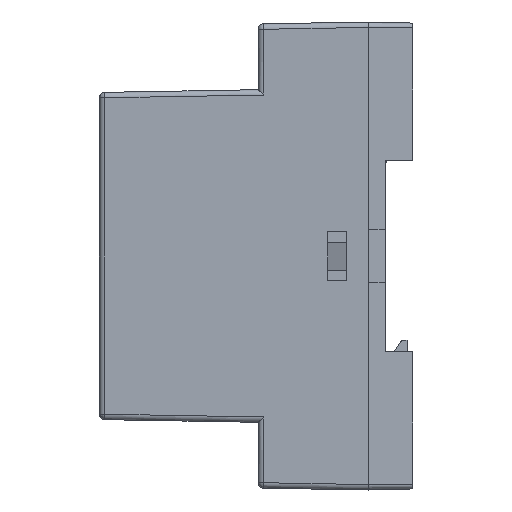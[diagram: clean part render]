
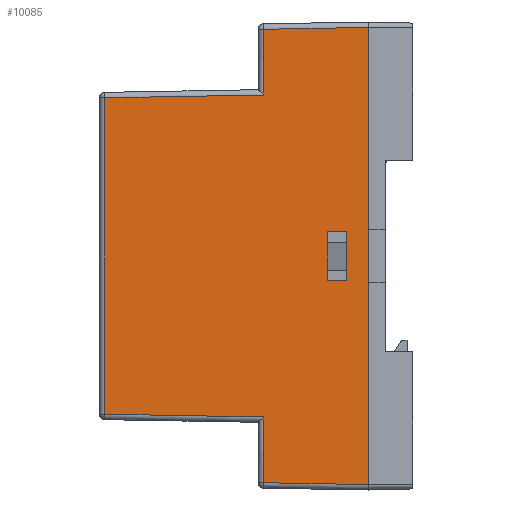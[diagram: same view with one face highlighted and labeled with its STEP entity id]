
A CAD part, left-side view. The second image highlights one B-rep face of the part: STEP entity #10085.
In plain terms, the highlighted planar face has unit normal (-1, 0.009, 0).
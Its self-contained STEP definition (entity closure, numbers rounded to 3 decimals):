
#159 = PLANE ( 'NONE',  #753 ) ;
#237 = CARTESIAN_POINT ( 'NONE',  ( -52.485, 7.5, 4.5 ) ) ;
#363 = LINE ( 'NONE', #15161, #3368 ) ;
#548 = VERTEX_POINT ( 'NONE', #237 ) ;
#753 = AXIS2_PLACEMENT_3D ( 'NONE', #8974, #12380, #5023 ) ;
#754 = DIRECTION ( 'NONE',  ( 0., 0., 1. ) ) ;
#1237 = LINE ( 'NONE', #7459, #5429 ) ;
#1588 = VERTEX_POINT ( 'NONE', #4407 ) ;
#1833 = CARTESIAN_POINT ( 'NONE',  ( -52.552, -0.228, 29.958 ) ) ;
#1844 = LINE ( 'NONE', #15418, #5354 ) ;
#1914 = DIRECTION ( 'NONE',  ( -0.009, -1., 0. ) ) ;
#1981 = VECTOR ( 'NONE', #13837, 1000. ) ;
#2292 = ORIENTED_EDGE ( 'NONE', *, *, #12366, .T. ) ;
#2302 = DIRECTION ( 'NONE',  ( -0.009, -1., -0.017 ) ) ;
#2346 = ORIENTED_EDGE ( 'NONE', *, *, #14814, .T. ) ;
#2447 = ORIENTED_EDGE ( 'NONE', *, *, #12183, .T. ) ;
#2694 = LINE ( 'NONE', #3994, #7146 ) ;
#2713 = EDGE_CURVE ( 'NONE', #12020, #1588, #363, .T. ) ;
#2723 = CARTESIAN_POINT ( 'NONE',  ( -52.381, 19.309, 43.05 ) ) ;
#2805 = ORIENTED_EDGE ( 'NONE', *, *, #3890, .T. ) ;
#2893 = EDGE_CURVE ( 'NONE', #1588, #11878, #1237, .T. ) ;
#2928 = CARTESIAN_POINT ( 'NONE',  ( -52.127, 48.509, -29.108 ) ) ;
#2935 = VERTEX_POINT ( 'NONE', #9410 ) ;
#3117 = LINE ( 'NONE', #8169, #6229 ) ;
#3368 = VECTOR ( 'NONE', #11284, 1000. ) ;
#3375 = ORIENTED_EDGE ( 'NONE', *, *, #5395, .T. ) ;
#3471 = EDGE_CURVE ( 'NONE', #15432, #2935, #9365, .T. ) ;
#3530 = VERTEX_POINT ( 'NONE', #15662 ) ;
#3886 = VERTEX_POINT ( 'NONE', #4431 ) ;
#3890 = EDGE_CURVE ( 'NONE', #11878, #7615, #10644, .T. ) ;
#3903 = VECTOR ( 'NONE', #2302, 1000. ) ;
#3994 = CARTESIAN_POINT ( 'NONE',  ( -52.55, 0., 43.05 ) ) ;
#4059 = FACE_BOUND ( 'NONE', #9558, .T. ) ;
#4394 = LINE ( 'NONE', #9215, #5332 ) ;
#4407 = CARTESIAN_POINT ( 'NONE',  ( -52.381, 19.309, 41.713 ) ) ;
#4431 = CARTESIAN_POINT ( 'NONE',  ( -52.515, 4., -4.5 ) ) ;
#4492 = CARTESIAN_POINT ( 'NONE',  ( -52.127, 48.509, 29.108 ) ) ;
#4509 = CARTESIAN_POINT ( 'NONE',  ( -52.55, 0., -42.05 ) ) ;
#4531 = ORIENTED_EDGE ( 'NONE', *, *, #15669, .T. ) ;
#4653 = CARTESIAN_POINT ( 'NONE',  ( -52.537, 1.485, -42.024 ) ) ;
#4709 = LINE ( 'NONE', #11825, #10474 ) ;
#5023 = DIRECTION ( 'NONE',  ( -0.009, -1., 0. ) ) ;
#5207 = LINE ( 'NONE', #13932, #1981 ) ;
#5224 = ORIENTED_EDGE ( 'NONE', *, *, #2893, .T. ) ;
#5329 = CARTESIAN_POINT ( 'NONE',  ( -52.515, 4., 4.5 ) ) ;
#5332 = VECTOR ( 'NONE', #7025, 1000. ) ;
#5354 = VECTOR ( 'NONE', #1914, 1000. ) ;
#5395 = EDGE_CURVE ( 'NONE', #5656, #3886, #4394, .T. ) ;
#5429 = VECTOR ( 'NONE', #5939, 1000. ) ;
#5656 = VERTEX_POINT ( 'NONE', #5329 ) ;
#5939 = DIRECTION ( 'NONE',  ( 0., 0., -1. ) ) ;
#6229 = VECTOR ( 'NONE', #7937, 1000. ) ;
#6407 = DIRECTION ( 'NONE',  ( 0., 0., -1. ) ) ;
#6414 = ORIENTED_EDGE ( 'NONE', *, *, #3471, .T. ) ;
#6770 = EDGE_LOOP ( 'NONE', ( #7278, #2447, #12388, #10310, #5224, #2805, #2292, #6414 ) ) ;
#6823 = DIRECTION ( 'NONE',  ( 0.009, 1., -0.017 ) ) ;
#7025 = DIRECTION ( 'NONE',  ( 0., 0., -1. ) ) ;
#7146 = VECTOR ( 'NONE', #6407, 1000. ) ;
#7278 = ORIENTED_EDGE ( 'NONE', *, *, #7553, .T. ) ;
#7459 = CARTESIAN_POINT ( 'NONE',  ( -52.381, 19.309, 43.05 ) ) ;
#7553 = EDGE_CURVE ( 'NONE', #2935, #3530, #10223, .T. ) ;
#7615 = VERTEX_POINT ( 'NONE', #4492 ) ;
#7683 = CARTESIAN_POINT ( 'NONE',  ( -52.485, 7.5, -4.5 ) ) ;
#7937 = DIRECTION ( 'NONE',  ( 0., 0., -1. ) ) ;
#8123 = ORIENTED_EDGE ( 'NONE', *, *, #11542, .T. ) ;
#8169 = CARTESIAN_POINT ( 'NONE',  ( -52.127, 48.509, 43.05 ) ) ;
#8233 = CARTESIAN_POINT ( 'NONE',  ( -52.539, 1.274, -29.932 ) ) ;
#8284 = LINE ( 'NONE', #4653, #3903 ) ;
#8974 = CARTESIAN_POINT ( 'NONE',  ( -52.55, 0., 43.05 ) ) ;
#9215 = CARTESIAN_POINT ( 'NONE',  ( -52.515, 4., 43.05 ) ) ;
#9365 = LINE ( 'NONE', #8233, #13336 ) ;
#9410 = CARTESIAN_POINT ( 'NONE',  ( -52.381, 19.309, -29.617 ) ) ;
#9476 = VERTEX_POINT ( 'NONE', #4509 ) ;
#9558 = EDGE_LOOP ( 'NONE', ( #3375, #2346, #8123, #4531 ) ) ;
#10085 = ADVANCED_FACE ( 'NONE', ( #4059, #15211 ), #159, .T. ) ;
#10160 = VERTEX_POINT ( 'NONE', #7683 ) ;
#10223 = LINE ( 'NONE', #2723, #12094 ) ;
#10310 = ORIENTED_EDGE ( 'NONE', *, *, #2713, .T. ) ;
#10474 = VECTOR ( 'NONE', #754, 1000. ) ;
#10520 = VECTOR ( 'NONE', #6823, 1000. ) ;
#10644 = LINE ( 'NONE', #1833, #10520 ) ;
#11284 = DIRECTION ( 'NONE',  ( 0.009, 1., -0.017 ) ) ;
#11542 = EDGE_CURVE ( 'NONE', #10160, #548, #4709, .T. ) ;
#11766 = CARTESIAN_POINT ( 'NONE',  ( -52.55, 0., 42.05 ) ) ;
#11825 = CARTESIAN_POINT ( 'NONE',  ( -52.485, 7.5, 43.05 ) ) ;
#11878 = VERTEX_POINT ( 'NONE', #14528 ) ;
#12020 = VERTEX_POINT ( 'NONE', #11766 ) ;
#12094 = VECTOR ( 'NONE', #12579, 1000. ) ;
#12183 = EDGE_CURVE ( 'NONE', #3530, #9476, #8284, .T. ) ;
#12366 = EDGE_CURVE ( 'NONE', #7615, #15432, #3117, .T. ) ;
#12380 = DIRECTION ( 'NONE',  ( -1., 0.009, 0. ) ) ;
#12388 = ORIENTED_EDGE ( 'NONE', *, *, #13634, .F. ) ;
#12579 = DIRECTION ( 'NONE',  ( 0., 0., -1. ) ) ;
#13336 = VECTOR ( 'NONE', #14462, 1000. ) ;
#13634 = EDGE_CURVE ( 'NONE', #12020, #9476, #2694, .T. ) ;
#13837 = DIRECTION ( 'NONE',  ( 0.009, 1., 0. ) ) ;
#13932 = CARTESIAN_POINT ( 'NONE',  ( -52.55, 0., -4.5 ) ) ;
#14462 = DIRECTION ( 'NONE',  ( -0.009, -1., -0.017 ) ) ;
#14528 = CARTESIAN_POINT ( 'NONE',  ( -52.381, 19.309, 29.617 ) ) ;
#14814 = EDGE_CURVE ( 'NONE', #3886, #10160, #5207, .T. ) ;
#15161 = CARTESIAN_POINT ( 'NONE',  ( -52.55, -0.017, 42.05 ) ) ;
#15211 = FACE_OUTER_BOUND ( 'NONE', #6770, .T. ) ;
#15418 = CARTESIAN_POINT ( 'NONE',  ( -52.55, 0., 4.5 ) ) ;
#15432 = VERTEX_POINT ( 'NONE', #2928 ) ;
#15662 = CARTESIAN_POINT ( 'NONE',  ( -52.381, 19.309, -41.713 ) ) ;
#15669 = EDGE_CURVE ( 'NONE', #548, #5656, #1844, .T. ) ;
